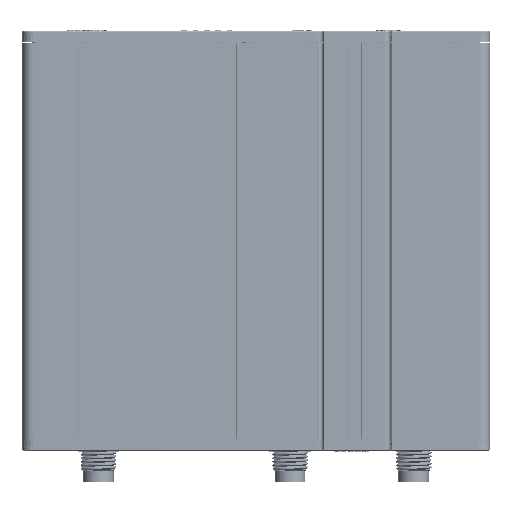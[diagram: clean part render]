
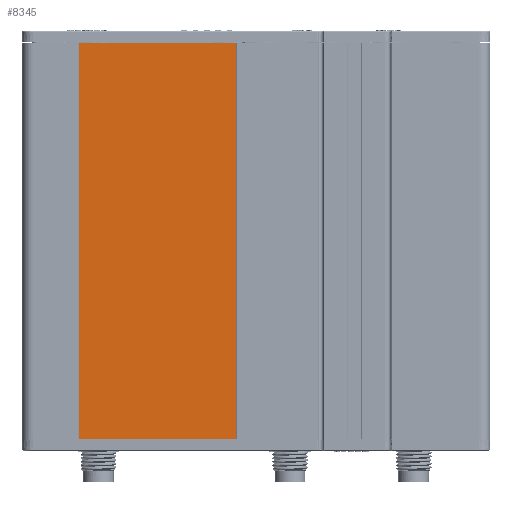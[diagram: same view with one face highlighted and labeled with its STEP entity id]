
A CAD part, front view. The second image highlights one B-rep face of the part: STEP entity #8345.
In plain terms, the highlighted planar face has unit normal (0, -1, 0).
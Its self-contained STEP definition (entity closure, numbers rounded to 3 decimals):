
#8345 = ADVANCED_FACE ( 'NONE', ( #536225 ), #798728, .F. ) ;
#11736 = ORIENTED_EDGE ( 'NONE', *, *, #303738, .T. ) ;
#28758 = CARTESIAN_POINT ( 'NONE',  ( 37.9, 0.4, 0. ) ) ;
#36025 = EDGE_CURVE ( 'NONE', #78644, #631269, #651386, .T. ) ;
#60330 = CARTESIAN_POINT ( 'NONE',  ( 10., 0.4, 0. ) ) ;
#62183 = VECTOR ( 'NONE', #468025, 1000. ) ;
#65078 = DIRECTION ( 'NONE',  ( 0., 0., 1. ) ) ;
#78644 = VERTEX_POINT ( 'NONE', #387903 ) ;
#125555 = VECTOR ( 'NONE', #754862, 1000. ) ;
#178646 = DIRECTION ( 'NONE',  ( 0., 1., 0. ) ) ;
#235253 = DIRECTION ( 'NONE',  ( -1., 0., 0. ) ) ;
#250856 = LINE ( 'NONE', #60330, #62183 ) ;
#256602 = AXIS2_PLACEMENT_3D ( 'NONE', #671728, #178646, #65078 ) ;
#303738 = EDGE_CURVE ( 'NONE', #879191, #78644, #560096, .T. ) ;
#304864 = VECTOR ( 'NONE', #235253, 1000. ) ;
#307875 = CARTESIAN_POINT ( 'NONE',  ( 10., 0.4, 70.2 ) ) ;
#342315 = ORIENTED_EDGE ( 'NONE', *, *, #36025, .T. ) ;
#360329 = CARTESIAN_POINT ( 'NONE',  ( 10.1, 0.4, 0. ) ) ;
#377376 = CARTESIAN_POINT ( 'NONE',  ( 10.1, 0.4, 70.2 ) ) ;
#387903 = CARTESIAN_POINT ( 'NONE',  ( 37.9, 0.4, 70.2 ) ) ;
#390150 = EDGE_CURVE ( 'NONE', #879191, #803148, #250856, .T. ) ;
#414367 = VECTOR ( 'NONE', #660651, 1000. ) ;
#468025 = DIRECTION ( 'NONE',  ( -1., 0., 0. ) ) ;
#485107 = LINE ( 'NONE', #760956, #414367 ) ;
#536225 = FACE_OUTER_BOUND ( 'NONE', #733505, .T. ) ;
#555662 = ORIENTED_EDGE ( 'NONE', *, *, #700697, .T. ) ;
#560096 = LINE ( 'NONE', #836101, #125555 ) ;
#631269 = VERTEX_POINT ( 'NONE', #377376 ) ;
#651386 = LINE ( 'NONE', #307875, #304864 ) ;
#651848 = ORIENTED_EDGE ( 'NONE', *, *, #390150, .F. ) ;
#660651 = DIRECTION ( 'NONE',  ( 0., 0., -1. ) ) ;
#671728 = CARTESIAN_POINT ( 'NONE',  ( 10., 0.4, 0. ) ) ;
#700697 = EDGE_CURVE ( 'NONE', #631269, #803148, #485107, .T. ) ;
#733505 = EDGE_LOOP ( 'NONE', ( #342315, #555662, #651848, #11736 ) ) ;
#754862 = DIRECTION ( 'NONE',  ( 0., 0., 1. ) ) ;
#760956 = CARTESIAN_POINT ( 'NONE',  ( 10.1, 0.4, 0. ) ) ;
#798728 = PLANE ( 'NONE',  #256602 ) ;
#803148 = VERTEX_POINT ( 'NONE', #360329 ) ;
#836101 = CARTESIAN_POINT ( 'NONE',  ( 37.9, 0.4, 70.2 ) ) ;
#879191 = VERTEX_POINT ( 'NONE', #28758 ) ;
